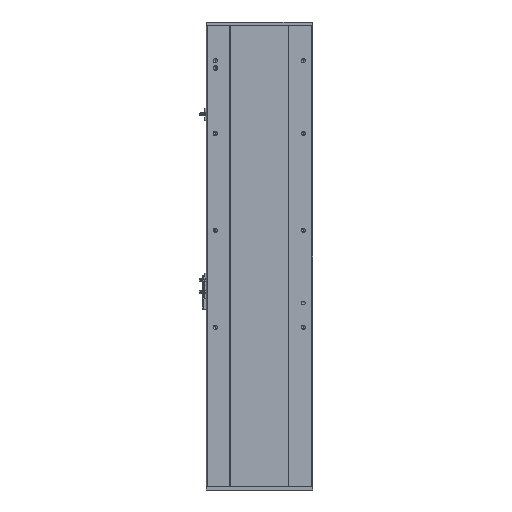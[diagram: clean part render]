
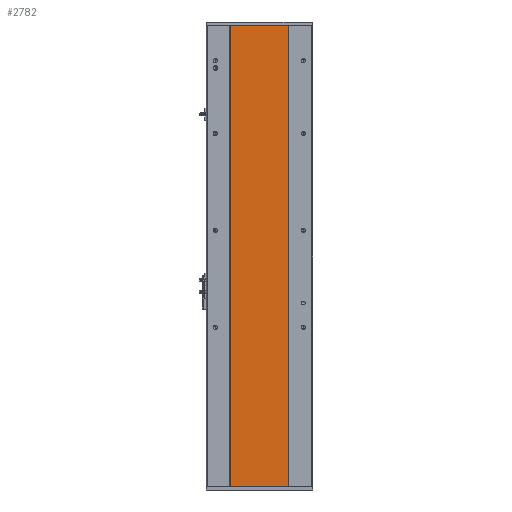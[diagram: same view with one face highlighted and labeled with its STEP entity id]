
A CAD part, front view. The second image highlights one B-rep face of the part: STEP entity #2782.
In plain terms, the highlighted planar face has unit normal (0, -1, 0).
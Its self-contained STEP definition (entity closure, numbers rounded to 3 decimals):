
#292 = VERTEX_POINT ( 'NONE', #15780 ) ;
#666 = VERTEX_POINT ( 'NONE', #3423 ) ;
#937 = FACE_OUTER_BOUND ( 'NONE', #12898, .T. ) ;
#1174 = CARTESIAN_POINT ( 'NONE',  ( 432.408, 155.016, 950. ) ) ;
#2782 = ADVANCED_FACE ( 'NONE', ( #937 ), #7264, .F. ) ;
#3308 = VECTOR ( 'NONE', #15231, 1000. ) ;
#3423 = CARTESIAN_POINT ( 'NONE',  ( 551.58, 155.016, 950. ) ) ;
#3444 = VERTEX_POINT ( 'NONE', #5491 ) ;
#4288 = VECTOR ( 'NONE', #8604, 1000. ) ;
#4858 = CARTESIAN_POINT ( 'NONE',  ( 0., 155.016, 0. ) ) ;
#5491 = CARTESIAN_POINT ( 'NONE',  ( 432.408, 155.016, 950. ) ) ;
#5951 = VERTEX_POINT ( 'NONE', #16998 ) ;
#6566 = DIRECTION ( 'NONE',  ( 1., 0., 0. ) ) ;
#6861 = CARTESIAN_POINT ( 'NONE',  ( 0., 155.016, 950. ) ) ;
#7219 = ORIENTED_EDGE ( 'NONE', *, *, #17272, .T. ) ;
#7264 = PLANE ( 'NONE',  #7573 ) ;
#7300 = LINE ( 'NONE', #1174, #3308 ) ;
#7573 = AXIS2_PLACEMENT_3D ( 'NONE', #13475, #19705, #16301 ) ;
#8393 = LINE ( 'NONE', #6861, #10163 ) ;
#8604 = DIRECTION ( 'NONE',  ( 0., 0., -1. ) ) ;
#9642 = ORIENTED_EDGE ( 'NONE', *, *, #10392, .T. ) ;
#9977 = ORIENTED_EDGE ( 'NONE', *, *, #16518, .F. ) ;
#10163 = VECTOR ( 'NONE', #6566, 1000. ) ;
#10392 = EDGE_CURVE ( 'NONE', #292, #5951, #11069, .T. ) ;
#10777 = DIRECTION ( 'NONE',  ( 1., 0., 0. ) ) ;
#10902 = ORIENTED_EDGE ( 'NONE', *, *, #15743, .F. ) ;
#11069 = LINE ( 'NONE', #4858, #11629 ) ;
#11360 = LINE ( 'NONE', #12985, #4288 ) ;
#11629 = VECTOR ( 'NONE', #10777, 1000. ) ;
#12898 = EDGE_LOOP ( 'NONE', ( #9642, #9977, #10902, #7219 ) ) ;
#12985 = CARTESIAN_POINT ( 'NONE',  ( 551.58, 155.016, 950. ) ) ;
#13475 = CARTESIAN_POINT ( 'NONE',  ( 0., 155.016, 950. ) ) ;
#15231 = DIRECTION ( 'NONE',  ( 0., 0., -1. ) ) ;
#15743 = EDGE_CURVE ( 'NONE', #3444, #666, #8393, .T. ) ;
#15780 = CARTESIAN_POINT ( 'NONE',  ( 432.408, 155.016, 0. ) ) ;
#16301 = DIRECTION ( 'NONE',  ( 0., 0., 1. ) ) ;
#16518 = EDGE_CURVE ( 'NONE', #666, #5951, #11360, .T. ) ;
#16998 = CARTESIAN_POINT ( 'NONE',  ( 551.58, 155.016, 0. ) ) ;
#17272 = EDGE_CURVE ( 'NONE', #3444, #292, #7300, .T. ) ;
#19705 = DIRECTION ( 'NONE',  ( 0., 1., 0. ) ) ;
